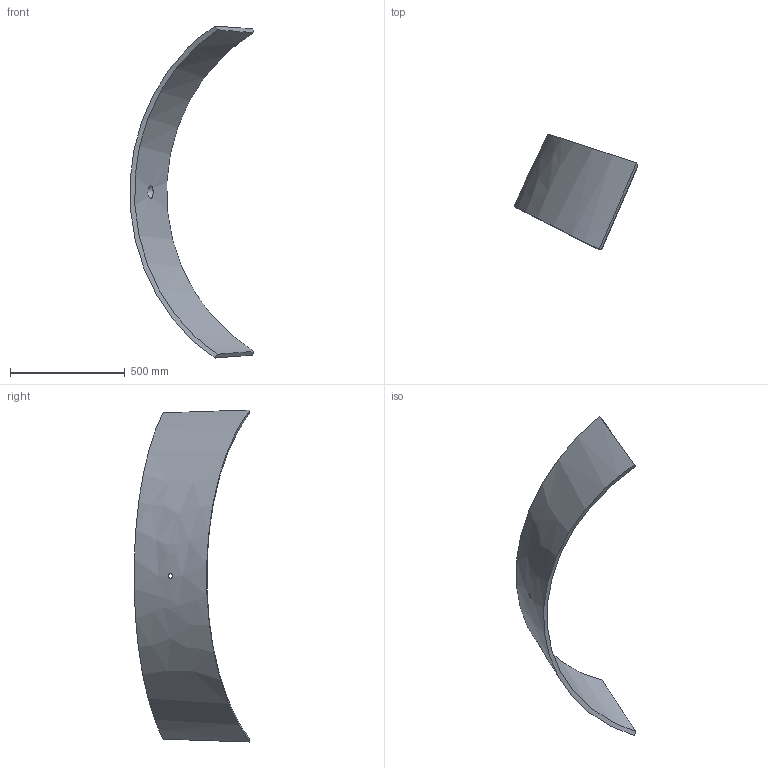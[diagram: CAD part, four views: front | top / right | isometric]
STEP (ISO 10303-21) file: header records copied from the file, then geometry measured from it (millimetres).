
FILE_DESCRIPTION (( 'STEP AP214' ), '1' );
FILE_NAME ('P6.1.STEP', '2025-01-09T19:43:24', ( '' ), ( '' ), 'SwSTEP 2.0', 'SolidWorks 2024', '' );
FILE_SCHEMA (( 'AUTOMOTIVE_DESIGN' ));
Length unit declared in the file: inch
Products named in the file (1): P6.1
Bounding box: 539.43 x 504.02 x 1446.05 mm (x, y, z)
Volume: 11661921.9 mm3; surface area: 1327382.4 mm2
Topology: 1 solids, 1 shells, 8 faces, 17 edges, 11 vertices
Faces by surface type: bspline 7, cylinder 1
Full cylindrical faces by diameter (mm): 19.431 x1
Entity records: 2549 total; most frequent: CARTESIAN_POINT 2401, ORIENTED_EDGE 30, EDGE_CURVE 15, B_SPLINE_CURVE_WITH_KNOTS 15, EDGE_LOOP 12, VERTEX_POINT 11, FACE_OUTER_BOUND 10, ADVANCED_FACE 8
